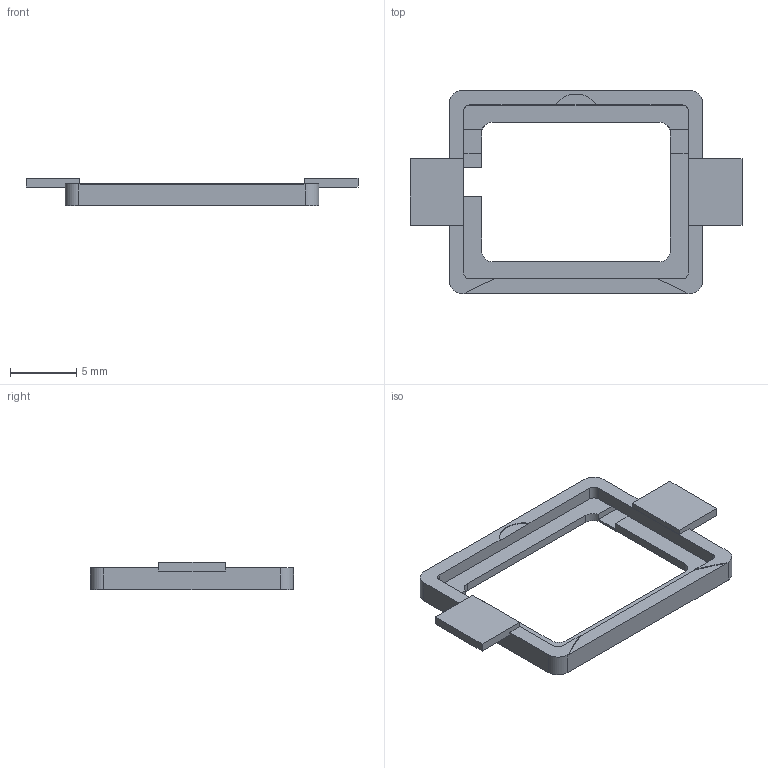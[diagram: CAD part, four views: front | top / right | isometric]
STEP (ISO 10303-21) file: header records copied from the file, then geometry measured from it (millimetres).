
FILE_DESCRIPTION(('Open CASCADE Model'),'2;1');
FILE_NAME('Open CASCADE Shape Model','2026-09-06T11:30:50',('Author'),( 'Open CASCADE'),'Open CASCADE STEP processor 7.7','Open CASCADE 7.7' ,'Unknown');
FILE_SCHEMA(('AUTOMOTIVE_DESIGN { 1 0 10303 214 1 1 1 1 }'));
Length unit declared in the file: millimetre
Products named in the file (1): Open CASCADE STEP translator 7.7 28
Bounding box: 25 x 15.3 x 2.05 mm (x, y, z)
Volume: 179 mm3; surface area: 568.4 mm2
Topology: 1 solids, 1 shells, 61 faces, 180 edges, 120 vertices
Faces by surface type: plane 46, cylinder 15
Entity records: 4366 total; most frequent: CARTESIAN_POINT 808, DIRECTION 650, LINE 438, VECTOR 438, ORIENTED_EDGE 360, PCURVE 360, DEFINITIONAL_REPRESENTATION 360, EDGE_CURVE 180
